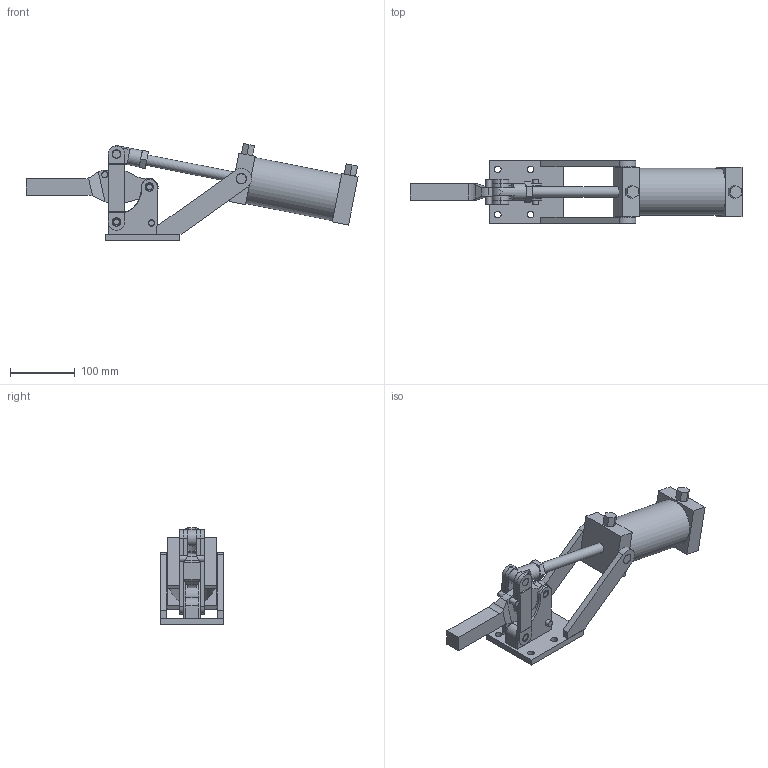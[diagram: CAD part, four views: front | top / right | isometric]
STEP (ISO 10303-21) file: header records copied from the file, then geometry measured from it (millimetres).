
FILE_DESCRIPTION(/* description */ (''),/* implementation_level */ '2;1');
FILE_NAME(/* name */ 'a1915',/* time_stamp */ '2002-06-20T12:26:44-05:00',/* author */ (''),/* organization */ (''),/* preprocessor_version */ 'ST-DEVELOPER v8',/* originating_system */ 'UNIGRAPHICS SOLUTIONS - UNIGRAPHICS 18.0',/* authorisation */ '');
FILE_SCHEMA (('CONFIG_CONTROL_DESIGN'));
Length unit declared in the file: inch
Products named in the file (1): gues215F0024
Bounding box: 512.36 x 98.43 x 149.61 mm (x, y, z)
Volume: 1395658.3 mm3; surface area: 207042 mm2
Topology: 17 solids, 17 shells, 216 faces, 511 edges, 336 vertices
Faces by surface type: plane 140, cylinder 64, cone 12
Full cylindrical faces by diameter (mm): 9.017 x1, 9.042 x3, 9.195 x1, 9.525 x1, 9.55 x6, 9.703 x1, 10.319 x4, 12.255 x2, 12.649 x3, 12.763 x5, 15.443 x1, 15.875 x2, 15.951 x2, 25.4 x1, 72.4 x1
Entity records: 6141 total; most frequent: DIRECTION 1049, CARTESIAN_POINT 1036, ORIENTED_EDGE 936, EDGE_CURVE 468, AXIS2_PLACEMENT_3D 368, VERTEX_POINT 333, LINE 313, VECTOR 313
